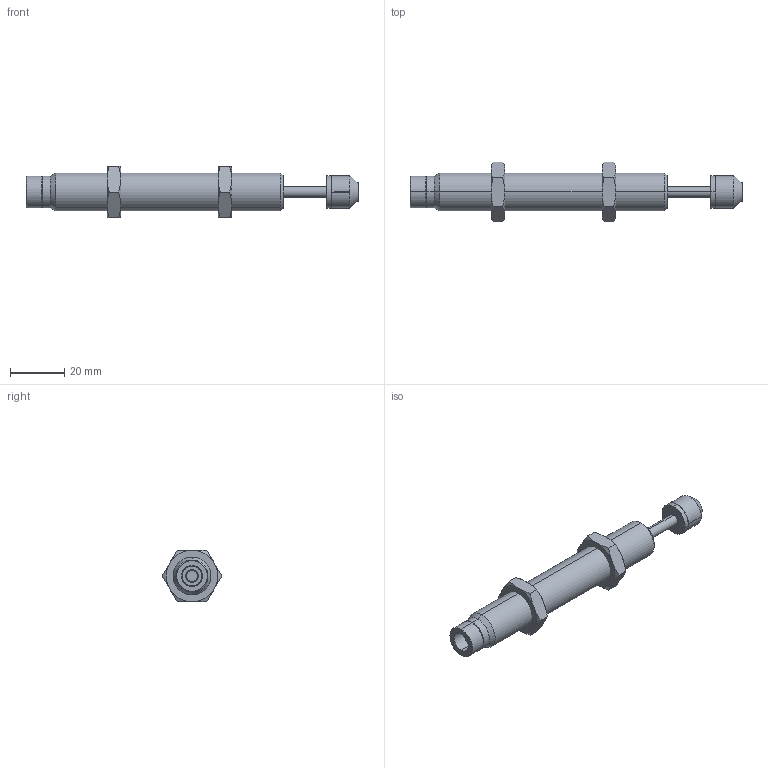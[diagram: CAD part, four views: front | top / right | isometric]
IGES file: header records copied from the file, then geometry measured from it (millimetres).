
Start section: SolidWorks IGES file using analytic representation for surfaces
Global section: file name: D:\IGS跡宒\AC1416-4.IGS,1; native system: 5HSolidWorks 2013; preprocessor: SolidWorks 2013; author: Administrator; date: 160406.151822; units: inch
Bounding box: 122.7 x 21.94 x 19 mm (x, y, z)
Surface area: 7411.7 mm2 (no closed solid volume)
Topology: 0 solids, 0 shells, 96 faces, 1416 edges, 1416 vertices
Faces by surface type: revolution 72, bspline 24
